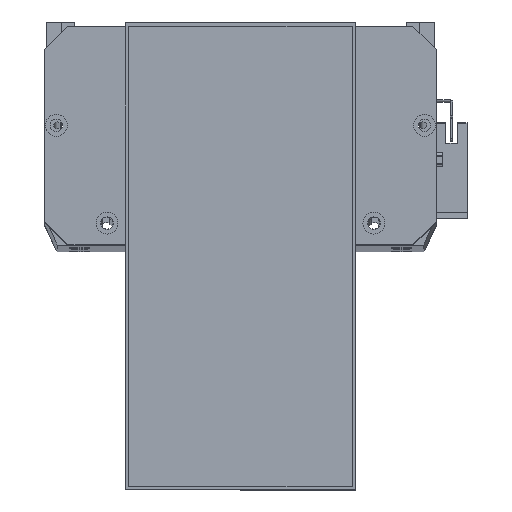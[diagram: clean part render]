
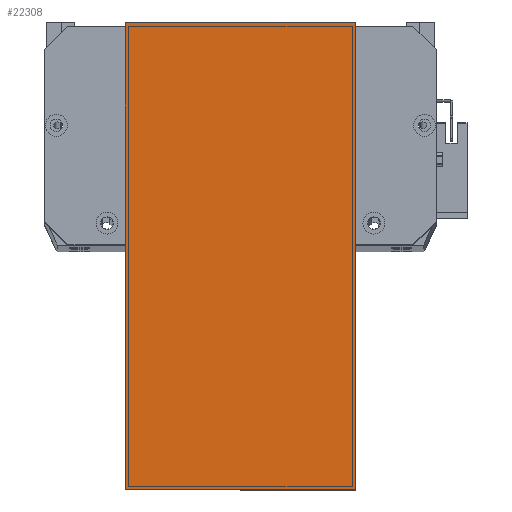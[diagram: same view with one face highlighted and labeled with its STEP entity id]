
A CAD part, top view. The second image highlights one B-rep face of the part: STEP entity #22308.
In plain terms, the highlighted planar face has unit normal (0, 0, 1) as drawn and (0, 0, -1) by its records, which use the part's own axes.
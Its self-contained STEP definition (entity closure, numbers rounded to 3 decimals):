
#508 = EDGE_LOOP ( 'NONE', ( #19891, #13222, #12871, #25564 ) ) ;
#2355 = LINE ( 'NONE', #14503, #20696 ) ;
#2555 = CARTESIAN_POINT ( 'NONE',  ( -12., 119.5, 0. ) ) ;
#2775 = LINE ( 'NONE', #23030, #27521 ) ;
#2816 = VECTOR ( 'NONE', #22835, 1000. ) ;
#3660 = VERTEX_POINT ( 'NONE', #9540 ) ;
#3842 = FACE_OUTER_BOUND ( 'NONE', #508, .T. ) ;
#5135 = EDGE_CURVE ( 'NONE', #23644, #22352, #2775, .T. ) ;
#8743 = DIRECTION ( 'NONE',  ( -1., 0., 0. ) ) ;
#9258 = LINE ( 'NONE', #27675, #2816 ) ;
#9540 = CARTESIAN_POINT ( 'NONE',  ( 203., 119.5, 0. ) ) ;
#10753 = CARTESIAN_POINT ( 'NONE',  ( 203., 19.5, 0. ) ) ;
#12871 = ORIENTED_EDGE ( 'NONE', *, *, #27180, .T. ) ;
#13222 = ORIENTED_EDGE ( 'NONE', *, *, #5135, .F. ) ;
#13396 = VERTEX_POINT ( 'NONE', #10753 ) ;
#13799 = AXIS2_PLACEMENT_3D ( 'NONE', #18109, #23041, #8743 ) ;
#14466 = CARTESIAN_POINT ( 'NONE',  ( 0., 119.5, 0. ) ) ;
#14503 = CARTESIAN_POINT ( 'NONE',  ( -12., 19.5, 0. ) ) ;
#18109 = CARTESIAN_POINT ( 'NONE',  ( 0., 0., 0. ) ) ;
#18521 = EDGE_CURVE ( 'NONE', #13396, #3660, #9258, .T. ) ;
#19891 = ORIENTED_EDGE ( 'NONE', *, *, #30365, .F. ) ;
#20626 = PLANE ( 'NONE',  #13799 ) ;
#20696 = VECTOR ( 'NONE', #24031, 1000. ) ;
#22308 = ADVANCED_FACE ( 'NONE', ( #3842 ), #20626, .T. ) ;
#22352 = VERTEX_POINT ( 'NONE', #25987 ) ;
#22373 = VECTOR ( 'NONE', #26633, 1000. ) ;
#22835 = DIRECTION ( 'NONE',  ( 0., 1., 0. ) ) ;
#23030 = CARTESIAN_POINT ( 'NONE',  ( 0., 0., 0. ) ) ;
#23041 = DIRECTION ( 'NONE',  ( 0., 0., -1. ) ) ;
#23644 = VERTEX_POINT ( 'NONE', #14466 ) ;
#23895 = LINE ( 'NONE', #2555, #22373 ) ;
#24031 = DIRECTION ( 'NONE',  ( 1., 0., 0. ) ) ;
#25564 = ORIENTED_EDGE ( 'NONE', *, *, #18521, .F. ) ;
#25987 = CARTESIAN_POINT ( 'NONE',  ( 0., 19.5, 0. ) ) ;
#26633 = DIRECTION ( 'NONE',  ( 1., 0., 0. ) ) ;
#27180 = EDGE_CURVE ( 'NONE', #23644, #3660, #23895, .T. ) ;
#27521 = VECTOR ( 'NONE', #30258, 1000. ) ;
#27675 = CARTESIAN_POINT ( 'NONE',  ( 203., 0., 0. ) ) ;
#30258 = DIRECTION ( 'NONE',  ( 0., -1., 0. ) ) ;
#30365 = EDGE_CURVE ( 'NONE', #22352, #13396, #2355, .T. ) ;
